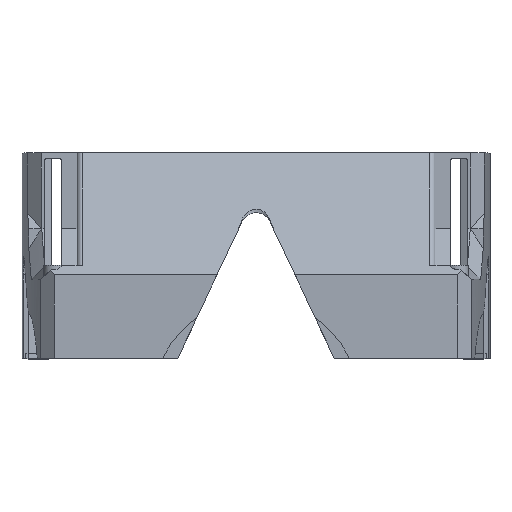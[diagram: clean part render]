
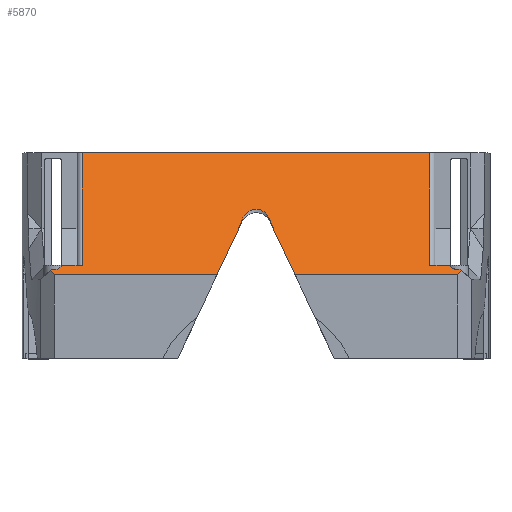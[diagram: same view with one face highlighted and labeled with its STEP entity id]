
A CAD part, top view. The second image highlights one B-rep face of the part: STEP entity #5870.
In plain terms, the highlighted planar face has unit normal (0, 0.63, 0.777).
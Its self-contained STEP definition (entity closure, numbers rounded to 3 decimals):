
#9=DIRECTION('',(1.,0.,0.));
#10=VECTOR('',#9,47.254);
#11=CARTESIAN_POINT('',(-58.599,24.25,77.));
#12=LINE('',#11,#10);
#35=DIRECTION('',(1.,0.,0.));
#36=VECTOR('',#35,47.254);
#37=CARTESIAN_POINT('',(11.345,24.25,77.));
#38=LINE('',#37,#36);
#592=DIRECTION('',(-1.,0.,0.));
#593=VECTOR('',#592,5.674);
#594=CARTESIAN_POINT('',(-50.5,27.,74.77));
#595=LINE('',#594,#593);
#596=DIRECTION('',(-1.,0.,0.));
#597=VECTOR('',#596,5.674);
#598=CARTESIAN_POINT('',(56.174,27.,74.77));
#599=LINE('',#598,#597);
#1827=CARTESIAN_POINT('',(59.296,25.914,75.651));
#1828=CARTESIAN_POINT('',(58.607,25.699,75.825));
#1829=CARTESIAN_POINT('',(57.475,25.845,75.707));
#1830=CARTESIAN_POINT('',(56.563,26.509,75.168));
#1831=CARTESIAN_POINT('',(56.174,27.,74.77));
#1833=CARTESIAN_POINT('',(59.717,25.439,76.036));
#1834=CARTESIAN_POINT('',(59.647,25.518,75.972));
#1835=CARTESIAN_POINT('',(59.506,25.677,75.843));
#1836=CARTESIAN_POINT('',(59.366,25.835,75.715));
#1837=CARTESIAN_POINT('',(59.296,25.914,75.651));
#1839=DIRECTION('',(0.59,0.627,-0.509));
#1840=VECTOR('',#1839,1.896);
#1841=CARTESIAN_POINT('',(58.599,24.25,77.));
#1842=LINE('',#1841,#1840);
#1843=DIRECTION('',(-0.343,0.73,-0.592));
#1844=VECTOR('',#1843,20.306);
#1845=CARTESIAN_POINT('',(11.345,24.25,77.));
#1846=LINE('',#1845,#1844);
#1847=CARTESIAN_POINT('',(4.384,39.067,64.986));
#1848=CARTESIAN_POINT('',(4.293,39.554,64.591));
#1849=CARTESIAN_POINT('',(4.11,40.109,64.142));
#1850=CARTESIAN_POINT('',(3.836,40.744,63.626));
#1851=CARTESIAN_POINT('',(3.562,41.222,63.239));
#1852=CARTESIAN_POINT('',(3.197,41.748,62.813));
#1853=CARTESIAN_POINT('',(2.74,42.246,62.409));
#1854=CARTESIAN_POINT('',(2.192,42.684,62.053));
#1855=CARTESIAN_POINT('',(1.644,43.,61.797));
#1856=CARTESIAN_POINT('',(0.913,43.286,61.566));
#1857=CARTESIAN_POINT('',(0.,43.421,
61.456));
#1858=CARTESIAN_POINT('',(-0.913,43.286,
61.566));
#1859=CARTESIAN_POINT('',(-1.644,43.,61.797));
#1860=CARTESIAN_POINT('',(-2.192,42.684,62.053));
#1861=CARTESIAN_POINT('',(-2.74,42.246,62.409));
#1862=CARTESIAN_POINT('',(-3.197,41.748,62.813));
#1863=CARTESIAN_POINT('',(-3.562,41.222,63.239));
#1864=CARTESIAN_POINT('',(-3.836,40.744,63.626));
#1865=CARTESIAN_POINT('',(-4.11,40.109,64.142));
#1866=CARTESIAN_POINT('',(-4.293,39.554,64.591));
#1867=CARTESIAN_POINT('',(-4.384,39.067,64.986));
#1869=DIRECTION('',(0.343,0.73,-0.592));
#1870=VECTOR('',#1869,20.306);
#1871=CARTESIAN_POINT('',(-11.345,24.25,77.));
#1872=LINE('',#1871,#1870);
#1873=DIRECTION('',(0.59,-0.627,0.509));
#1874=VECTOR('',#1873,1.896);
#1875=CARTESIAN_POINT('',(-59.717,25.439,76.036));
#1876=LINE('',#1875,#1874);
#1877=CARTESIAN_POINT('',(-59.296,25.914,75.651));
#1878=CARTESIAN_POINT('',(-59.366,25.835,75.715));
#1879=CARTESIAN_POINT('',(-59.506,25.677,75.843));
#1880=CARTESIAN_POINT('',(-59.647,25.518,75.972));
#1881=CARTESIAN_POINT('',(-59.717,25.439,76.036));
#1883=CARTESIAN_POINT('',(-56.174,27.,74.77));
#1884=CARTESIAN_POINT('',(-56.563,26.509,75.168));
#1885=CARTESIAN_POINT('',(-57.475,25.845,75.707));
#1886=CARTESIAN_POINT('',(-58.607,25.699,75.825));
#1887=CARTESIAN_POINT('',(-59.296,25.914,75.651));
#1889=DIRECTION('',(0.,-0.777,0.63));
#1890=VECTOR('',#1889,42.163);
#1891=CARTESIAN_POINT('',(-50.5,59.75,48.216));
#1892=LINE('',#1891,#1890);
#1893=DIRECTION('',(1.,0.,0.));
#1894=VECTOR('',#1893,101.);
#1895=CARTESIAN_POINT('',(-50.5,59.75,48.216));
#1896=LINE('',#1895,#1894);
#1897=DIRECTION('',(0.,0.777,-0.63));
#1898=VECTOR('',#1897,42.163);
#1899=CARTESIAN_POINT('',(50.5,27.,74.77));
#1900=LINE('',#1899,#1898);
#2310=CARTESIAN_POINT('',(-50.5,27.,74.77));
#2752=CARTESIAN_POINT('',(50.5,27.,74.77));
#2957=CARTESIAN_POINT('',(-59.717,25.439,76.036));
#2958=CARTESIAN_POINT('',(-58.599,24.25,77.));
#2959=VERTEX_POINT('',#2957);
#2960=VERTEX_POINT('',#2958);
#2967=CARTESIAN_POINT('',(58.599,24.25,77.));
#2968=CARTESIAN_POINT('',(59.717,25.439,76.036));
#2969=VERTEX_POINT('',#2967);
#2970=VERTEX_POINT('',#2968);
#3039=CARTESIAN_POINT('',(11.345,24.25,77.));
#3041=VERTEX_POINT('',#3039);
#3043=CARTESIAN_POINT('',(-11.345,24.25,77.));
#3045=VERTEX_POINT('',#3043);
#3051=CARTESIAN_POINT('',(4.384,39.067,64.986));
#3052=VERTEX_POINT('',#3051);
#3053=CARTESIAN_POINT('',(-4.384,39.067,64.986));
#3054=VERTEX_POINT('',#3053);
#3108=VERTEX_POINT('',#2752);
#3109=VERTEX_POINT('',#2310);
#3126=CARTESIAN_POINT('',(-50.5,59.75,48.216));
#3127=CARTESIAN_POINT('',(50.5,59.75,48.216));
#3128=VERTEX_POINT('',#3126);
#3129=VERTEX_POINT('',#3127);
#3466=VERTEX_POINT('',#1827);
#3467=VERTEX_POINT('',#1831);
#3468=VERTEX_POINT('',#1883);
#3469=VERTEX_POINT('',#1887);
#5841=CARTESIAN_POINT('',(0.,42.75,62.));
#5842=DIRECTION('',(0.,0.63,0.777));
#5843=DIRECTION('',(0.,-0.777,0.63));
#5844=AXIS2_PLACEMENT_3D('',#5841,#5842,#5843);
#5845=PLANE('',#5844);
#5846=ORIENTED_EDGE('',*,*,#4247,.F.);
#5847=ORIENTED_EDGE('',*,*,#5822,.F.);
#5848=ORIENTED_EDGE('',*,*,#5834,.F.);
#5849=ORIENTED_EDGE('',*,*,#3620,.F.);
#5850=ORIENTED_EDGE('',*,*,#4458,.T.);
#5852=ORIENTED_EDGE('',*,*,#5851,.T.);
#5854=ORIENTED_EDGE('',*,*,#5853,.F.);
#5855=ORIENTED_EDGE('',*,*,#3600,.F.);
#5857=ORIENTED_EDGE('',*,*,#5856,.F.);
#5859=ORIENTED_EDGE('',*,*,#5858,.F.);
#5860=ORIENTED_EDGE('',*,*,#4356,.F.);
#5861=ORIENTED_EDGE('',*,*,#4306,.F.);
#5863=ORIENTED_EDGE('',*,*,#5862,.F.);
#5864=ORIENTED_EDGE('',*,*,#5495,.T.);
#5866=ORIENTED_EDGE('',*,*,#5865,.F.);
#5867=ORIENTED_EDGE('',*,*,#4324,.F.);
#5868=EDGE_LOOP('',(#5846,#5847,#5848,#5849,#5850,#5852,#5854,#5855,#5857,#5859,
#5860,#5861,#5863,#5864,#5866,#5867));
#5869=FACE_OUTER_BOUND('',#5868,.F.);
#5870=ADVANCED_FACE('',(#5869),#5845,.T.);
#1832=B_SPLINE_CURVE_WITH_KNOTS('',3,(#1827,#1828,#1829,#1830,#1831),
.UNSPECIFIED.,.F.,.F.,(4,1,4),(0.,0.5,1.),.UNSPECIFIED.);
#1838=B_SPLINE_CURVE_WITH_KNOTS('',3,(#1833,#1834,#1835,#1836,#1837),
.UNSPECIFIED.,.F.,.F.,(4,1,4),(0.,0.5,1.),.UNSPECIFIED.);
#1868=B_SPLINE_CURVE_WITH_KNOTS('',3,(#1847,#1848,#1849,#1850,#1851,#1852,#1853,
#1854,#1855,#1856,#1857,#1858,#1859,#1860,#1861,#1862,#1863,#1864,#1865,#1866,
#1867),.UNSPECIFIED.,.F.,.F.,(4,1,1,1,1,1,1,1,1,1,1,1,1,1,1,1,1,1,4),(0.,
0.031,0.063,0.094,0.125,0.188,0.25,0.313,0.375,0.5,
0.625,0.688,0.75,0.813,0.875,0.906,0.938,0.969,1.),
.UNSPECIFIED.);
#1882=B_SPLINE_CURVE_WITH_KNOTS('',3,(#1877,#1878,#1879,#1880,#1881),
.UNSPECIFIED.,.F.,.F.,(4,1,4),(0.,0.5,1.),.UNSPECIFIED.);
#1888=B_SPLINE_CURVE_WITH_KNOTS('',3,(#1883,#1884,#1885,#1886,#1887),
.UNSPECIFIED.,.F.,.F.,(4,1,4),(0.,0.5,1.),.UNSPECIFIED.);
#3600=EDGE_CURVE('',#2960,#3045,#12,.T.);
#3620=EDGE_CURVE('',#3041,#2969,#38,.T.);
#4247=EDGE_CURVE('',#3466,#3467,#1832,.T.);
#4306=EDGE_CURVE('',#3109,#3468,#595,.T.);
#4324=EDGE_CURVE('',#3467,#3108,#599,.T.);
#4356=EDGE_CURVE('',#3468,#3469,#1888,.T.);
#4458=EDGE_CURVE('',#3041,#3052,#1846,.T.);
#5495=EDGE_CURVE('',#3128,#3129,#1896,.T.);
#5822=EDGE_CURVE('',#2970,#3466,#1838,.T.);
#5834=EDGE_CURVE('',#2969,#2970,#1842,.T.);
#5851=EDGE_CURVE('',#3052,#3054,#1868,.T.);
#5853=EDGE_CURVE('',#3045,#3054,#1872,.T.);
#5856=EDGE_CURVE('',#2959,#2960,#1876,.T.);
#5858=EDGE_CURVE('',#3469,#2959,#1882,.T.);
#5862=EDGE_CURVE('',#3128,#3109,#1892,.T.);
#5865=EDGE_CURVE('',#3108,#3129,#1900,.T.);
